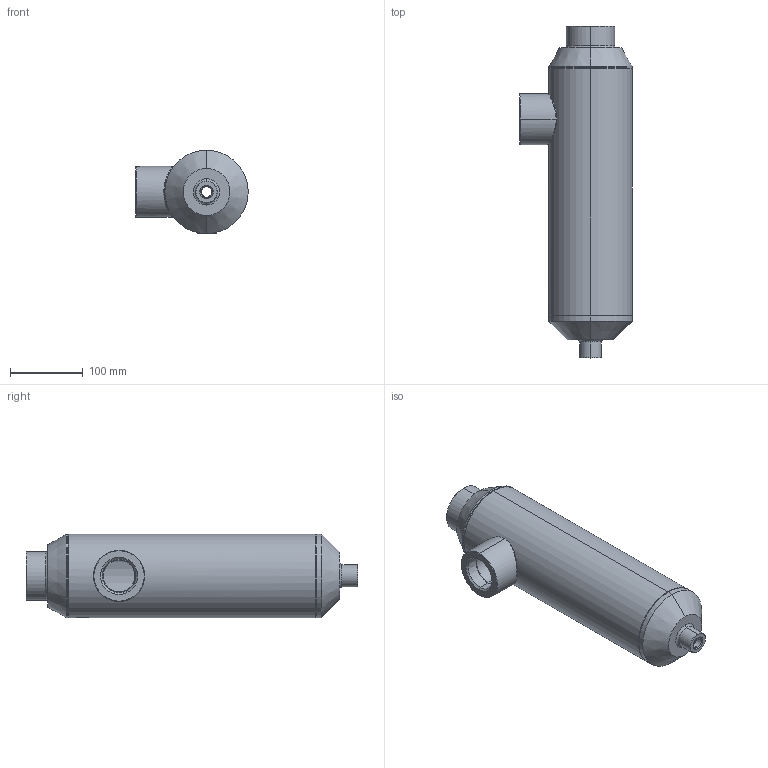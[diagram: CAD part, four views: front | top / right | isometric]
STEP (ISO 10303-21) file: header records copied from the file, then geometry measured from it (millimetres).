
FILE_DESCRIPTION (( 'STEP AP203' ), '1' );
FILE_NAME ('FAPP-T14-DUP01536_2022FEB16_0.STEP', '2022-02-16T15:48:36', ( '' ), ( '' ), 'SwSTEP 2.0', 'SolidWorks 2020', '' );
FILE_SCHEMA (( 'CONFIG_CONTROL_DESIGN' ));
Length unit declared in the file: millimetre
Products named in the file (1): FAPP-T14-DUP01536_2022FEB16_0
Bounding box: 154.15 x 455 x 114.5 mm (x, y, z)
Surface area: 185984.3 mm2 (no closed solid volume)
Topology: 0 solids, 41 shells, 109 faces, 1063 edges, 1000 vertices
Faces by surface type: plane 54, cone 30, cylinder 18, torus 4, bspline 3
Entity records: 15300 total; most frequent: CARTESIAN_POINT 8525, ORIENTED_EDGE 1193, EDGE_CURVE 1063, VERTEX_POINT 1000, DIRECTION 973, LINE 591, VECTOR 591, B_SPLINE_CURVE_WITH_KNOTS 388
